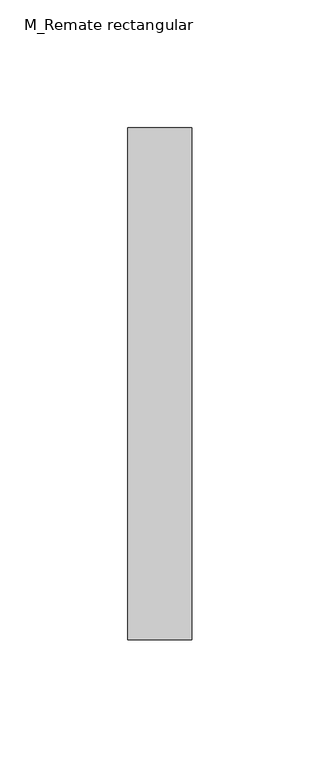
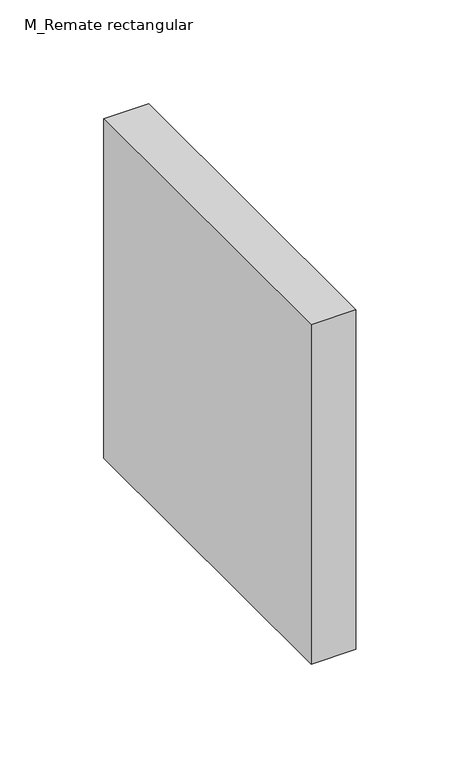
"""IFC4 building model written with IfcOpenShell, lengths in millimetres: duct fitting geometry, M_Remate rectangular : Estándar."""

from ifc_helpers import new_model, si_unit, frame, origin, place, context, project, spatial, polyline, outline, extrude, source, transform, mapped, element, save


def m_remate_rectangular_b5a2182c(model_context):
    return source(origin(), model_context, "Body", "SweptSolid", [
        extrude(outline(polyline([(0.0, -100.0), (0.0, 100.0), (25.0, 100.0), (25.0, -100.0), (0.0, -100.0)])), frame((0.0, 0.0, -100.0), z_axis=(0.0, 0.0, 1.0), x_axis=(1.0, 0.0, 0.0)), (0.0, 0.0, 1.0), 200.0),
    ])


if __name__ == "__main__":
    model = new_model("IFC4")
    model_context = context("Model", 3, world=origin())
    ifc_project = project(units=[si_unit("LENGTHUNIT", "METRE", prefix="MILLI")], contexts=[model_context])
    site = spatial("IfcSite", under=ifc_project)
    building = spatial("IfcBuilding", under=site)
    placement = place(None, origin())
    m_remate_rectangular_shape = m_remate_rectangular_b5a2182c(model_context)
    element("IfcDuctFitting", 1, ObjectType="M_Remate rectangular : Estándar", at=placement, inside=building, context=model_context, shape_type="MappedRepresentation", body=[
        mapped(m_remate_rectangular_shape, transform((0.0, 0.0, 0.0), x_axis=(1.0, 0.0, 0.0), y_axis=(0.0, 1.0, 0.0), z_axis=(0.0, 0.0, 1.0))),
    ])
    save(model, "model.ifc")
